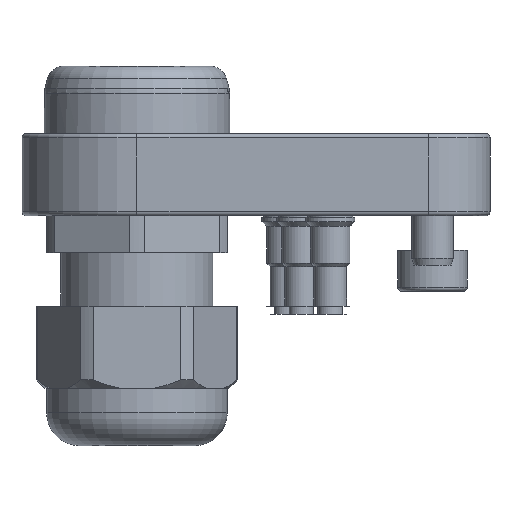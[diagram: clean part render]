
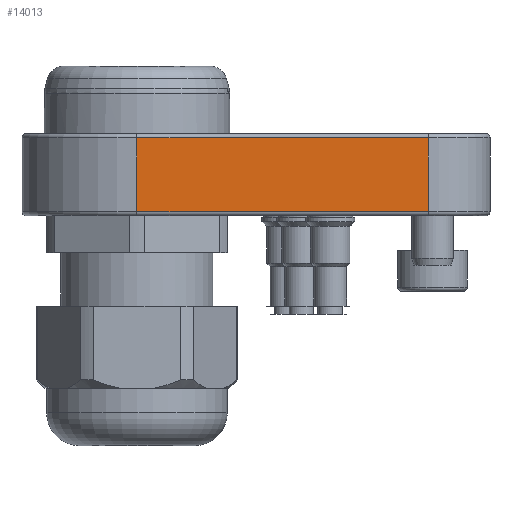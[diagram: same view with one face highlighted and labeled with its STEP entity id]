
A CAD part, left-side view. The second image highlights one B-rep face of the part: STEP entity #14013.
In plain terms, the highlighted planar face has unit normal (-1, 0, 0).
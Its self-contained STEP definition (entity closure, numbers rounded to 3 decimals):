
#358=PLANE('',#14879);
#1018=FACE_OUTER_BOUND('',#1783,.T.);
#1783=EDGE_LOOP('',(#9075,#9076,#9077,#9078));
#2746=LINE('',#21458,#3547);
#2753=LINE('',#21477,#3554);
#2754=LINE('',#21481,#3555);
#2755=LINE('',#21482,#3556);
#3547=VECTOR('',#16845,10.);
#3554=VECTOR('',#16866,10.);
#3555=VECTOR('',#16871,10.);
#3556=VECTOR('',#16872,10.);
#5515=VERTEX_POINT('',#21450);
#5517=VERTEX_POINT('',#21456);
#5522=VERTEX_POINT('',#21476);
#5523=VERTEX_POINT('',#21480);
#6992=EDGE_CURVE('',#5517,#5515,#2746,.T.);
#7002=EDGE_CURVE('',#5515,#5522,#2753,.T.);
#7004=EDGE_CURVE('',#5523,#5517,#2754,.T.);
#7005=EDGE_CURVE('',#5522,#5523,#2755,.T.);
#9075=ORIENTED_EDGE('',*,*,#6992,.F.);
#9076=ORIENTED_EDGE('',*,*,#7004,.F.);
#9077=ORIENTED_EDGE('',*,*,#7005,.F.);
#9078=ORIENTED_EDGE('',*,*,#7002,.F.);
#14013=ADVANCED_FACE('',(#1018),#358,.T.);
#14879=AXIS2_PLACEMENT_3D('',#21479,#16869,#16870);
#16845=DIRECTION('',(0.,1.,0.));
#16866=DIRECTION('',(0.,0.,1.));
#16869=DIRECTION('center_axis',(-1.,0.,0.));
#16870=DIRECTION('ref_axis',(0.,0.,1.));
#16871=DIRECTION('',(0.,0.,-1.));
#16872=DIRECTION('',(0.,-1.,0.));
#21450=CARTESIAN_POINT('',(-38.5,43.,-9.5));
#21456=CARTESIAN_POINT('',(-38.5,7.5,-9.5));
#21458=CARTESIAN_POINT('',(-38.5,42.49,-9.5));
#21476=CARTESIAN_POINT('',(-38.5,43.,-0.5));
#21477=CARTESIAN_POINT('',(-38.5,43.,0.));
#21479=CARTESIAN_POINT('Origin',(-38.5,57.,0.));
#21480=CARTESIAN_POINT('',(-38.5,7.5,-0.5));
#21481=CARTESIAN_POINT('',(-38.5,7.5,0.));
#21482=CARTESIAN_POINT('',(-38.5,42.49,-0.5));
